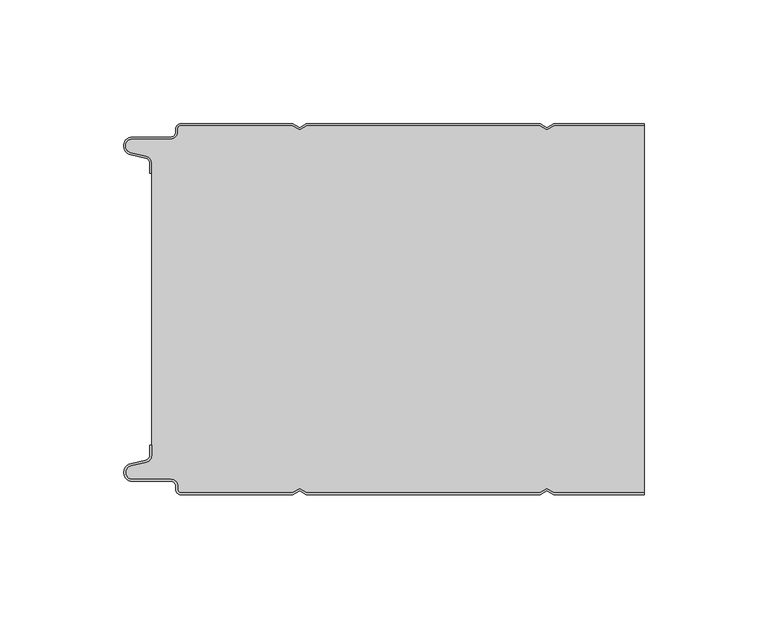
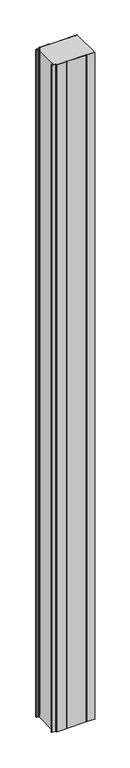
"""IFC4 building model written with IfcOpenShell, lengths in millimetres: plate geometry, PMH_Curtain-Panel_Perfil-Frigorífico : ACH_PMH_Panel-Acústico-Sectorización_150M."""

from ifc_helpers import new_model, si_unit, point, frame_2d, origin, origin_with_axes, place, context, project, spatial, polyline, circle_curve, trimmed, segment, composite_curve, outline, extrude, source, transform, mapped, element, save


def plate_c045a3eb(model_context):
    return source(origin(), model_context, "Body", "SweptSolid", [
        extrude(outline(composite_curve([segment(polyline([(-100.0, 15.878557), (-100.0, 20.0), (-99.2, 20.0), (-99.2, 15.878557)]), True, "CONTINUOUS"), segment(trimmed(circle_curve(frame_2d((-102.0, 15.878557)), 2.8), [point((-99.2, 15.878557))], [point((-101.370137, 13.1503208))], False, "CARTESIAN"), True, "CONTINUOUS"), segment(polyline([(-101.370137, 13.1503208), (-107.529863, 11.728236)]), True, "CONTINUOUS"), segment(trimmed(circle_curve(frame_2d((-106.9, 9.0)), 2.8), [point((-107.529863, 11.728236))], [point((-106.9, 6.2))], True, "CARTESIAN"), True, "CONTINUOUS"), segment(polyline([(-106.9, 6.2), (-91.4, 6.2)]), True, "CONTINUOUS"), segment(trimmed(circle_curve(frame_2d((-91.4, 3.4)), 2.8), [point((-91.4, 6.2))], [point((-88.6, 3.4))], False, "CARTESIAN"), True, "CONTINUOUS"), segment(polyline([(-88.6, 3.4), (-88.6, 2.0)]), True, "CONTINUOUS"), segment(trimmed(circle_curve(frame_2d((-87.4, 2.0)), 1.2), [point((-88.6, 2.0))], [point((-87.4, 0.8))], True, "CARTESIAN"), True, "CONTINUOUS"), segment(polyline([(-87.4, 0.8), (-42.3143588, 0.8), (-39.4, 2.482606), (-36.4856412, 0.8), (57.6856412, 0.8), (60.6, 2.482606), (63.5143588, 0.8), (100.0, 0.8), (100.0, 0.0), (63.2999995, 0.0), (60.6, 1.5588455), (57.9000005, 0.0), (-36.7000005, 0.0), (-39.4, 1.5588455), (-42.0999995, 0.0), (-87.4, 0.0)]), True, "CONTINUOUS"), segment(trimmed(circle_curve(frame_2d((-87.4, 2.0)), 2.0), [point((-87.4, 0.0))], [point((-89.4, 2.0))], False, "CARTESIAN"), True, "CONTINUOUS"), segment(polyline([(-89.4, 2.0), (-89.4, 3.4)]), True, "CONTINUOUS"), segment(trimmed(circle_curve(frame_2d((-91.4, 3.4)), 2.0), [point((-89.4, 3.4))], [point((-91.4, 5.4))], True, "CARTESIAN"), True, "CONTINUOUS"), segment(polyline([(-91.4, 5.4), (-106.9, 5.4)]), True, "CONTINUOUS"), segment(trimmed(circle_curve(frame_2d((-106.9, 9.0)), 3.6), [point((-106.9, 5.4))], [point((-107.7098239, 12.5077322))], False, "CARTESIAN"), True, "CONTINUOUS"), segment(polyline([(-107.7098239, 12.5077322), (-101.5500979, 13.929817)]), True, "CONTINUOUS"), segment(trimmed(circle_curve(frame_2d((-102.0, 15.878557)), 2.0), [point((-101.5500979, 13.929817))], [point((-100.0, 15.878557))], True, "CARTESIAN"), True, "CONTINUOUS")], self_intersect=False)), origin_with_axes(), (0.0, 0.0, 1.0), 3500.0),
        extrude(outline(composite_curve([segment(trimmed(circle_curve(frame_2d((-102.0, 134.1214426)), 2.8), [point((-99.2, 134.1214426))], [point((-101.370137, 136.8496788))], True, "CARTESIAN"), True, "CONTINUOUS"), segment(polyline([(-101.370137, 136.8496788), (-107.5298631, 138.2717638)]), True, "CONTINUOUS"), segment(trimmed(circle_curve(frame_2d((-106.9, 141.0)), 2.8), [point((-107.5298631, 138.2717638))], [point((-106.9, 143.8))], False, "CARTESIAN"), True, "CONTINUOUS"), segment(polyline([(-106.9, 143.8), (-91.4000001, 143.8)]), True, "CONTINUOUS"), segment(trimmed(circle_curve(frame_2d((-91.4000001, 146.6)), 2.8), [point((-91.4000001, 143.8))], [point((-88.6000001, 146.6))], True, "CARTESIAN"), True, "CONTINUOUS"), segment(polyline([(-88.6000001, 146.6), (-88.6000001, 148.0)]), True, "CONTINUOUS"), segment(trimmed(circle_curve(frame_2d((-87.4000001, 148.0)), 1.2), [point((-88.6000001, 148.0))], [point((-87.4000001, 149.2))], False, "CARTESIAN"), True, "CONTINUOUS"), segment(polyline([(-87.4000001, 149.2), (-42.3143589, 149.2), (-39.4000001, 147.517394), (-36.4856412, 149.2), (57.6856411, 149.2), (60.5999999, 147.517394), (63.5143588, 149.2), (100.0, 149.2), (100.0, 0.8), (63.5143588, 0.8), (60.5999999, 2.482606), (57.6856411, 0.8), (-36.4856412, 0.8), (-39.4000001, 2.482606), (-42.3143589, 0.8), (-87.4000001, 0.8)]), True, "CONTINUOUS"), segment(trimmed(circle_curve(frame_2d((-87.4000001, 2.0)), 1.2), [point((-87.4000001, 0.8))], [point((-88.6000001, 2.0))], False, "CARTESIAN"), True, "CONTINUOUS"), segment(polyline([(-88.6000001, 2.0), (-88.6000001, 3.4)]), True, "CONTINUOUS"), segment(trimmed(circle_curve(frame_2d((-91.4000001, 3.4)), 2.8), [point((-88.6000001, 3.4))], [point((-91.4000001, 6.2))], True, "CARTESIAN"), True, "CONTINUOUS"), segment(polyline([(-91.4000001, 6.2), (-106.9, 6.2)]), True, "CONTINUOUS"), segment(trimmed(circle_curve(frame_2d((-106.9, 9.0)), 2.8), [point((-106.9, 6.2))], [point((-107.5298631, 11.7282362))], False, "CARTESIAN"), True, "CONTINUOUS"), segment(polyline([(-107.5298631, 11.7282362), (-101.370137, 13.1503212)]), True, "CONTINUOUS"), segment(trimmed(circle_curve(frame_2d((-102.0, 15.8785573)), 2.8), [point((-101.370137, 13.1503212))], [point((-99.2, 15.8785573))], True, "CARTESIAN"), True, "CONTINUOUS"), segment(polyline([(-99.2, 15.8785573), (-99.2, 134.1214426)]), True, "CONTINUOUS")], self_intersect=False)), origin_with_axes(), (0.0, 0.0, 1.0), 3500.0),
        extrude(outline(composite_curve([segment(trimmed(circle_curve(frame_2d((-102.0, 134.121443)), 2.0), [point((-100.0, 134.121443))], [point((-101.5500978, 136.0701831))], True, "CARTESIAN"), True, "CONTINUOUS"), segment(polyline([(-101.5500978, 136.0701831), (-107.7098239, 137.492268)]), True, "CONTINUOUS"), segment(trimmed(circle_curve(frame_2d((-106.9, 141.0)), 3.6), [point((-107.7098239, 137.492268))], [point((-106.9, 144.6))], False, "CARTESIAN"), True, "CONTINUOUS"), segment(polyline([(-106.9, 144.6), (-91.4, 144.6)]), True, "CONTINUOUS"), segment(trimmed(circle_curve(frame_2d((-91.4, 146.6)), 2.0), [point((-91.4, 144.6))], [point((-89.4, 146.6))], True, "CARTESIAN"), True, "CONTINUOUS"), segment(polyline([(-89.4, 146.6), (-89.4, 148.0)]), True, "CONTINUOUS"), segment(trimmed(circle_curve(frame_2d((-87.4, 148.0)), 2.0), [point((-89.4, 148.0))], [point((-87.4, 150.0))], False, "CARTESIAN"), True, "CONTINUOUS"), segment(polyline([(-87.4, 150.0), (-42.0999995, 150.0), (-39.4, 148.4411545), (-36.7000005, 150.0), (57.9000005, 150.0), (60.6, 148.4411545), (63.2999995, 150.0), (100.0, 150.0), (100.0, 149.2), (63.5143588, 149.2), (60.6, 147.517394), (57.6856412, 149.2), (-36.4856412, 149.2), (-39.4, 147.517394), (-42.3143588, 149.2), (-87.4, 149.2)]), True, "CONTINUOUS"), segment(trimmed(circle_curve(frame_2d((-87.4, 148.0)), 1.2), [point((-87.4, 149.2))], [point((-88.6, 148.0))], True, "CARTESIAN"), True, "CONTINUOUS"), segment(polyline([(-88.6, 148.0), (-88.6, 146.6)]), True, "CONTINUOUS"), segment(trimmed(circle_curve(frame_2d((-91.4, 146.6)), 2.8), [point((-88.6, 146.6))], [point((-91.4, 143.8))], False, "CARTESIAN"), True, "CONTINUOUS"), segment(polyline([(-91.4, 143.8), (-106.9, 143.8)]), True, "CONTINUOUS"), segment(trimmed(circle_curve(frame_2d((-106.9, 141.0)), 2.8), [point((-106.9, 143.8))], [point((-107.529863, 138.2717638))], True, "CARTESIAN"), True, "CONTINUOUS"), segment(polyline([(-107.529863, 138.2717638), (-101.370137, 136.849679)]), True, "CONTINUOUS"), segment(trimmed(circle_curve(frame_2d((-102.0, 134.121443)), 2.8), [point((-101.370137, 136.849679))], [point((-99.2, 134.121443))], False, "CARTESIAN"), True, "CONTINUOUS"), segment(polyline([(-99.2, 134.121443), (-99.2, 130.0), (-100.0, 130.0), (-100.0, 134.121443)]), True, "CONTINUOUS")], self_intersect=False)), origin_with_axes(), (0.0, 0.0, 1.0), 3500.0),
    ])


if __name__ == "__main__":
    model = new_model("IFC4")
    model_context = context("Model", 3, world=origin())
    ifc_project = project(units=[si_unit("LENGTHUNIT", "METRE", prefix="MILLI")], contexts=[model_context])
    site = spatial("IfcSite", under=ifc_project)
    building = spatial("IfcBuilding", under=site)
    placement = place(None, origin())
    plate_shape = plate_c045a3eb(model_context)
    element("IfcPlate", 1, ObjectType="PMH_Curtain-Panel_Perfil-Frigorífico : ACH_PMH_Panel-Acústico-Sectorización_150M", at=placement, inside=building, context=model_context, shape_type="MappedRepresentation", body=[
        mapped(plate_shape, transform((0.0, 0.0, 0.0), x_axis=(1.0, 0.0, 0.0), y_axis=(0.0, 1.0, 0.0), z_axis=(0.0, 0.0, 1.0))),
    ])
    save(model, "model.ifc")
